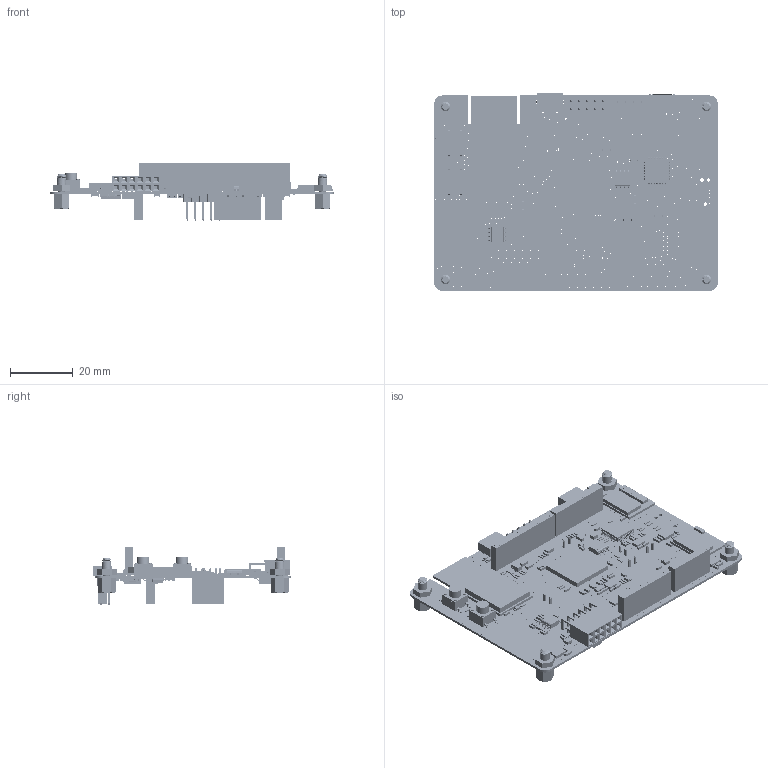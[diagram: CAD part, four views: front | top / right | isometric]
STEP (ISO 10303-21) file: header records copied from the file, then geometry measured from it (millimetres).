
FILE_DESCRIPTION(('Open CASCADE Model'),'2;1');
FILE_NAME('Open CASCADE Shape Model','2020-12-23T17:22:59',('Author'),( 'Open CASCADE'),'Open CASCADE STEP processor 6.8','Open CASCADE 6.8' ,'Unknown');
FILE_SCHEMA(('AUTOMOTIVE_DESIGN { 1 0 10303 214 1 1 1 1 }'));
Length unit declared in the file: millimetre
Products named in the file (439): PCB; Board; Open CASCADE STEP translator 6.8 3.1.1; R13; 6853824160; Extruded; 6853823600; R6; C76; 6853822000; 6853821440; 6853821280; C75; 6853820720; 6853426640; U10; 6852782384; 6852781984; Cylinder; 6852781584; C74; 6853424560; 6853424960; C46; 6852781184; 6852780784; 6853109984; U21; 6867866608; 6867866368; M1; 6867867808; 6867867568; 6867867328; 6867867088; 6867866848; CN10; 2x6_female_header_TH_2.54; 6867510960; 6867510480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
Assembly tree (1011 placements, depth 4):
  PCB
    Board
      Open CASCADE STEP translator 6.8 3.1.1
    R13
      6853824160  x2
        Extruded
      6853823600
        Extruded
    R6
      6853824160  x2
        Extruded
      6853823600
        Extruded
    C76
      6853822000
        Extruded
      6853821440
        Extruded
      6853821280
        Extruded
    C75
      6853820720
        Extruded
      6853426640
        Extruded
      6853821280
        Extruded
    U10
      6852782384
        Extruded
      6852781984
        Cylinder
      6852781584
        Cylinder
    C74
      6853424560
        Extruded
      6853424960  x2
        Extruded
    C46
      6852781184
        Extruded
      6852780784
        Extruded
      6853109984
        Extruded
    U21
      6867866608
        Extruded
      6867866368
        Cylinder
    M1
      6867867808
        Extruded
      6867867568
        Extruded
      6867867328
        Extruded
      6867867088
        Extruded
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Bounding box: 90.1 x 62.83 x 18.32 mm (x, y, z)
Volume: 11037.2 mm3; surface area: 27807.4 mm2
Topology: 703 solids, 855 shells, 10892 faces, 26522 edges, 16942 vertices
Faces by surface type: plane 7121, cylinder 2823, bspline 820, cone 94, sphere 28, torus 6
Full cylindrical faces by diameter (mm): 0.2 x590, 0.3 x280, 0.4 x1, 0.5 x6, 0.6 x9, 0.8 x2, 0.9 x2, 1 x37, 1.1 x3, 3.3 x4, 4 x2
Entity records: 178698 total; most frequent: CARTESIAN_POINT 35031, DIRECTION 25141, ORIENTED_EDGE 22998, EDGE_CURVE 11589, LINE 8437, VECTOR 8437, AXIS2_PLACEMENT_3D 8352, VERTEX_POINT 7618
